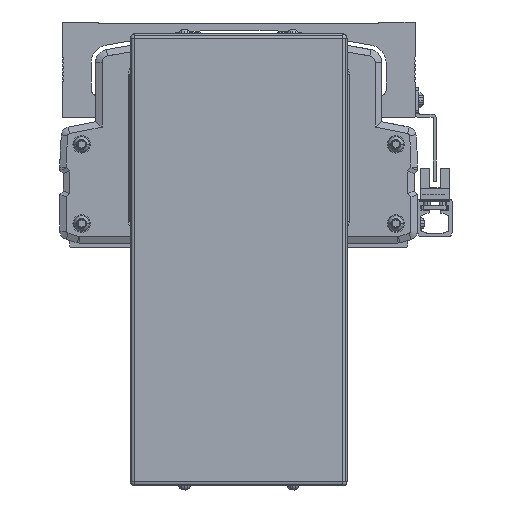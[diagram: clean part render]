
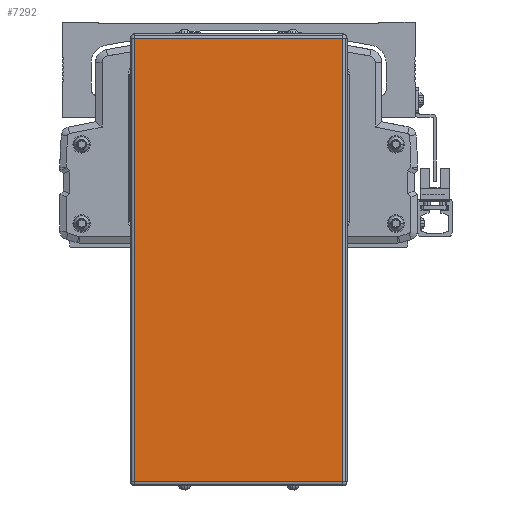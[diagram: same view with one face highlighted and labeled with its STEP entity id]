
A CAD part, front view. The second image highlights one B-rep face of the part: STEP entity #7292.
In plain terms, the highlighted planar face has unit normal (0, -1, 0).
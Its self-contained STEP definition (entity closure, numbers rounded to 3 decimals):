
#7292=ADVANCED_FACE('',(#15069),#15070,.T.);
#15069=FACE_OUTER_BOUND('',#25551,.T.);
#15070=PLANE('',#25552);
#25551=EDGE_LOOP('',(#46692,#46693,#46694,#46695));
#25552=AXIS2_PLACEMENT_3D('',#46696,#46697,#46698);
#46692=ORIENTED_EDGE('',*,*,#59508,.F.);
#46693=ORIENTED_EDGE('',*,*,#58665,.F.);
#46694=ORIENTED_EDGE('',*,*,#52961,.F.);
#46695=ORIENTED_EDGE('',*,*,#59407,.F.);
#46696=CARTESIAN_POINT('',(-600.,77.222,-57.8));
#46697=DIRECTION('',(0.,-1.0,0.));
#46698=DIRECTION('',(0.,0.,-1.0));
#52961=EDGE_CURVE('',#63501,#63503,#63504,.T.);
#58665=EDGE_CURVE('',#63503,#72294,#72295,.T.);
#59407=EDGE_CURVE('',#69945,#63501,#73216,.T.);
#59508=EDGE_CURVE('',#72294,#69945,#73338,.T.);
#63501=VERTEX_POINT('',#78504);
#63503=VERTEX_POINT('',#78506);
#63504=LINE('',#78507,#78508);
#69945=VERTEX_POINT('',#87886);
#72294=VERTEX_POINT('',#91294);
#72295=LINE('',#91295,#91296);
#73216=LINE('',#92729,#92730);
#73338=LINE('',#92907,#92908);
#78504=CARTESIAN_POINT('',(-552.,77.222,-160.1));
#78506=CARTESIAN_POINT('',(-648.,77.222,-160.1));
#78507=CARTESIAN_POINT('',(-600.,77.222,-160.1));
#78508=VECTOR('',#97333,10.0);
#87886=CARTESIAN_POINT('',(-552.,77.222,44.5));
#91294=CARTESIAN_POINT('',(-648.,77.222,44.5));
#91295=CARTESIAN_POINT('',(-648.,77.222,-57.8));
#91296=VECTOR('',#104382,10.0);
#92729=CARTESIAN_POINT('',(-552.,77.222,-57.8));
#92730=VECTOR('',#105108,10.0);
#92907=CARTESIAN_POINT('',(-600.,77.222,44.5));
#92908=VECTOR('',#105203,10.0);
#97333=DIRECTION('',(-1.0,0.,0.));
#104382=DIRECTION('',(0.,0.,1.0));
#105108=DIRECTION('',(0.,0.,-1.0));
#105203=DIRECTION('',(1.0,0.,0.));
